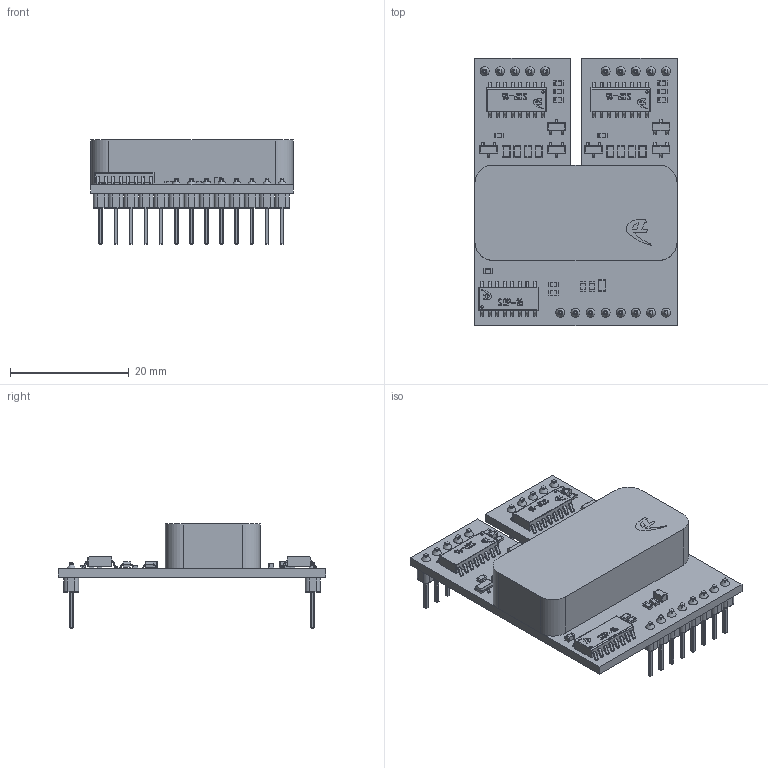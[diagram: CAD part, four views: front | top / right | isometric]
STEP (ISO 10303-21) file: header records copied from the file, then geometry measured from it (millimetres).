
FILE_DESCRIPTION(('STEP AP242'), '1');
FILE_NAME('ÄÐ8', '', ('UNSPECIFIED'), ('UNSPECIFIED'), 'C3D Converter', 'C3D Toolkit', '');
FILE_SCHEMA(('AP242_MANAGED_MODEL_BASED_3D_ENGINEERING_MIM_LF { 1 0 10303 442 1 1 4 }'));
Length unit declared in the file: millimetre
Assembly tree (32 placements, depth 2):
  (unnamed)
    (unnamed)
    (unnamed)  x3
    (unnamed)  x3
    (unnamed)  x9
    (unnamed)  x10
    (unnamed)  x6
Bounding box: 34 x 45 x 17.5 mm (x, y, z)
Volume: 6853 mm3; surface area: 6926.7 mm2
Topology: 121 solids, 145 shells, 4803 faces, 11262 edges, 6184 vertices
Faces by surface type: cylinder 1417, plane 1299, bspline 933, extrusion 471, sphere 345, torus 320, cone 18
Full cylindrical faces by diameter (mm): 0.4 x3
Entity records: 115674 total; most frequent: CARTESIAN_POINT 53363, ORIENTED_EDGE 9580, DIRECTION 8796, EDGE_CURVE 4822, AXIS2_PLACEMENT_3D 3155, VERTEX_POINT 2832, VECTOR 2486, EDGE_LOOP 2256
